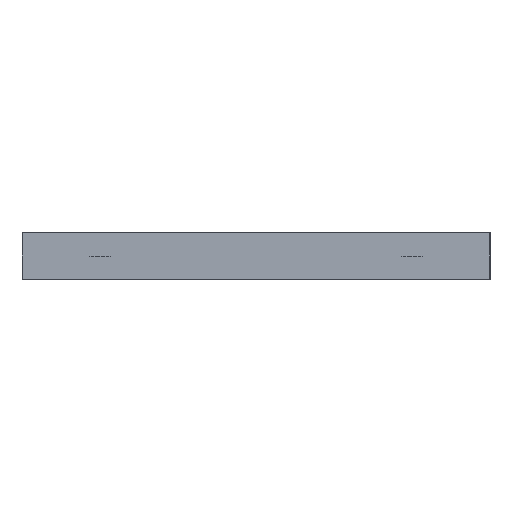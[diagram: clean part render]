
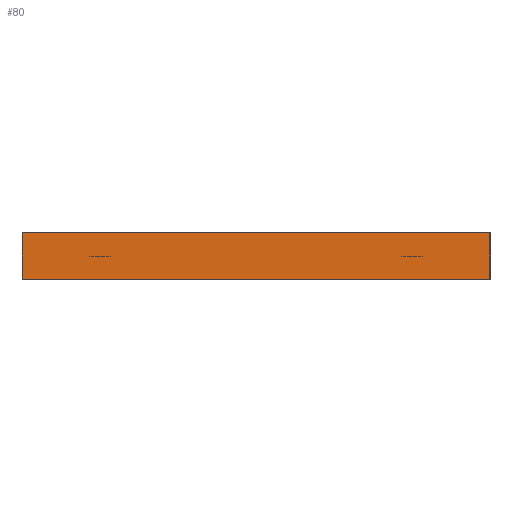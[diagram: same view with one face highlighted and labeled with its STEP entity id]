
A CAD part, left-side view. The second image highlights one B-rep face of the part: STEP entity #80.
In plain terms, the highlighted planar face has unit normal (-1, 0, 0).
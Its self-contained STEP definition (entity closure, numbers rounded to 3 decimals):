
#80=ADVANCED_FACE('',(#1237),#1239,.T.);
#1237=FACE_BOUND('',#1238,.T.);
#1238=EDGE_LOOP('',(#2372,#2373,#2374,#2375));
#1239=PLANE('',#1240);
#1240=AXIS2_PLACEMENT_3D('',#1241,#1242,#1243);
#1241=CARTESIAN_POINT('',(-298.,65.,0.));
#1242=DIRECTION('',(-1.,0.,0.));
#1243=DIRECTION('',(0.,-1.,0.));
#2372=ORIENTED_EDGE('',*,*,#2662,.T.);
#2373=ORIENTED_EDGE('',*,*,#2694,.T.);
#2374=ORIENTED_EDGE('',*,*,#2695,.F.);
#2375=ORIENTED_EDGE('',*,*,#2648,.F.);
#2648=EDGE_CURVE('',#2810,#2812,#2813,.T.);
#2662=EDGE_CURVE('',#2810,#2837,#2839,.T.);
#2694=EDGE_CURVE('',#2837,#2902,#2903,.T.);
#2695=EDGE_CURVE('',#2812,#2902,#2904,.T.);
#2810=VERTEX_POINT('',#3126);
#2812=VERTEX_POINT('',#3130);
#2813=LINE('',#3131,#3132);
#2837=VERTEX_POINT('',#3190);
#2839=LINE('',#3194,#3195);
#2902=VERTEX_POINT('',#3350);
#2903=LINE('',#3351,#3352);
#2904=LINE('',#3354,#3355);
#3126=CARTESIAN_POINT('',(-298.,65.,0.));
#3130=CARTESIAN_POINT('',(-298.,65.,12.));
#3131=CARTESIAN_POINT('',(-298.,65.,0.));
#3132=VECTOR('',#3133,1.);
#3133=DIRECTION('',(0.,0.,1.));
#3190=CARTESIAN_POINT('',(-298.,-55.,0.));
#3194=CARTESIAN_POINT('',(-298.,65.,0.));
#3195=VECTOR('',#3196,1.);
#3196=DIRECTION('',(0.,-1.,0.));
#3350=CARTESIAN_POINT('',(-298.,-55.,12.));
#3351=CARTESIAN_POINT('',(-298.,-55.,0.));
#3352=VECTOR('',#3353,1.);
#3353=DIRECTION('',(0.,0.,1.));
#3354=CARTESIAN_POINT('',(-298.,65.,12.));
#3355=VECTOR('',#3356,1.);
#3356=DIRECTION('',(0.,-1.,0.));
